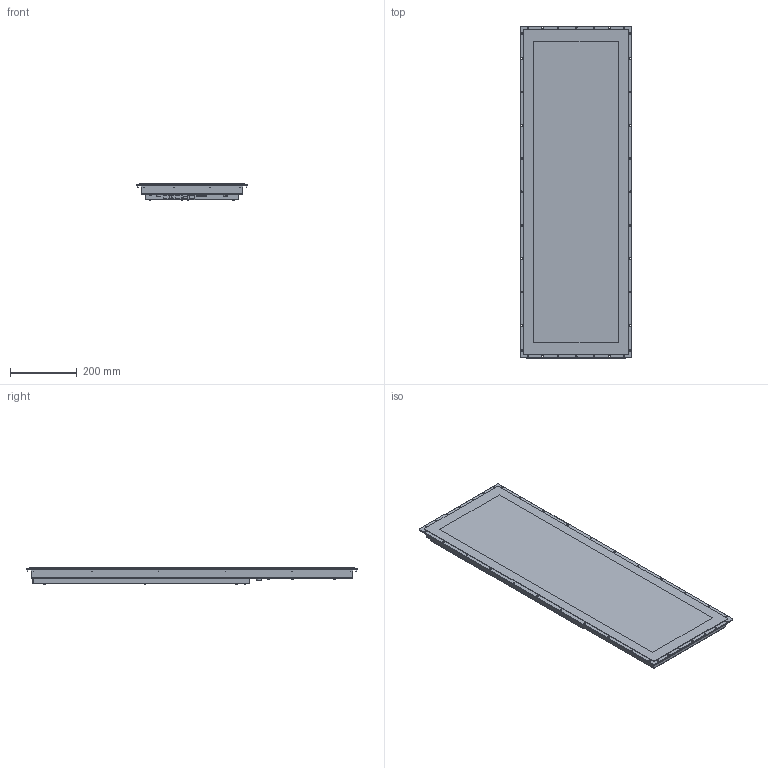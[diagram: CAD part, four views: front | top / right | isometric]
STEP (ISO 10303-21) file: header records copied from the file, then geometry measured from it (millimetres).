
FILE_DESCRIPTION(/* description */ (''),/* implementation_level */ '2;1');
FILE_NAME(/* name */ 'Konfiguration 1_DM38_20260825.step',/* time_stamp */ '2026-08-25T12:25:40+02:00',/* author */ (''),/* organization */ (''),/* preprocessor_version */ 'ST-DEVELOPER v20.1',/* originating_system */ 'Autodesk Translation Framework v15.8.0.0',/* authorisation */ '');
FILE_SCHEMA (('AUTOMOTIVE_DESIGN { 1 0 10303 214 3 1 1 }'));
Length unit declared in the file: millimetre
Products named in the file (10): Konfiguration 1; UT38; DM38_Panel; Plexi_frame_R1; Touchframe_DM38; ISO 7046-2 - M2x8 - H Stahl 4.6 Einfach; DM_OT_R1; 2026-03-31-14-09-28-941; DIN EN ISO 7380-1 - M3 x 6 Edelstahl A2-70 Einfach; DIN EN ISO 7380-1 - M3 x 6 Stahl 4.6 Einfach
Assembly tree (35 placements, depth 3):
  Konfiguration 1
    UT38
    DM38_Panel
    Plexi_frame_R1
    Touchframe_DM38
      ISO 7046-2 - M2x8 - H Stahl 4.6 Einfach  x20
    DM_OT_R1
    2026-03-31-14-09-28-941
    DIN EN ISO 7380-1 - M3 x 6 Edelstahl A2-70 Einfach
    DIN EN ISO 7380-1 - M3 x 6 Stahl 4.6 Einfach  x8
Bounding box: 335.6 x 995.04 x 49.35 mm (x, y, z)
Volume: 6437766.9 mm3; surface area: 2612306.6 mm2
Topology: 35 solids, 35 shells, 1293 faces, 3112 edges, 1954 vertices
Faces by surface type: plane 670, cylinder 458, cone 123, torus 29, sphere 9, bspline 4
Full cylindrical faces by diameter (mm): 1.5 x3, 1.8 x20, 1.933 x20, 2.2 x20, 2.459 x22, 2.5 x40, 2.927 x9, 3.242 x8, 3.5 x8, 3.8 x20, 4.2 x8, 4.917 x4, 5.41 x14, 5.6 x5, 5.62 x4, 6 x48, 6.5 x8, 7.5 x5, 14 x4, 15 x4
Entity records: 21278 total; most frequent: DIRECTION 3742, CARTESIAN_POINT 3448, ORIENTED_EDGE 3286, EDGE_CURVE 1643, AXIS2_PLACEMENT_3D 1391, VERTEX_POINT 1061, EDGE_LOOP 1060, LINE 960
